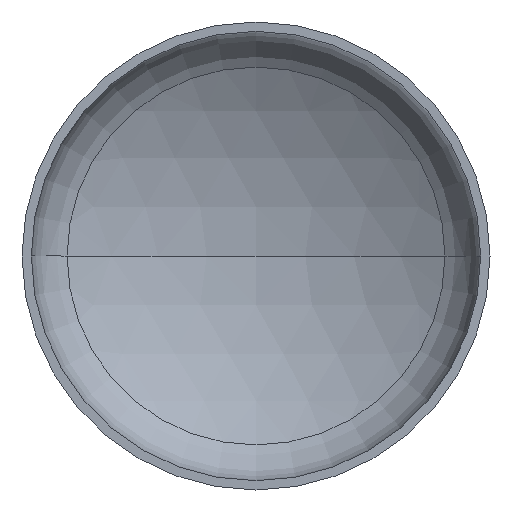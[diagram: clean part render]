
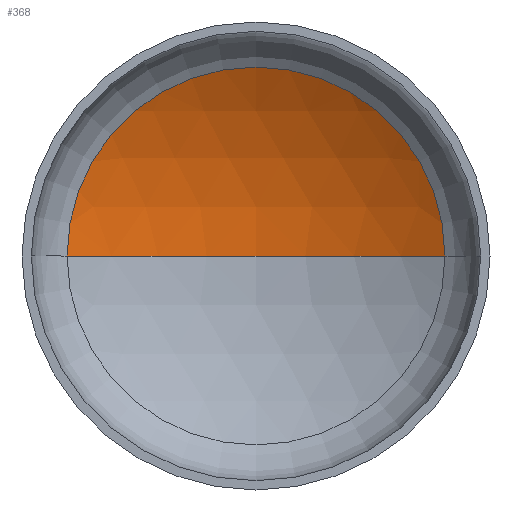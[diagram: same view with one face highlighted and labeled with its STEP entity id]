
A CAD part, front view. The second image highlights one B-rep face of the part: STEP entity #368.
In plain terms, the highlighted spherical face has radius 3040 mm.
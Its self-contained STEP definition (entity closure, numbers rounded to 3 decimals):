
#3 = AXIS2_PLACEMENT_3D ( 'NONE', #361, #110, #118 ) ;
#11 = AXIS2_PLACEMENT_3D ( 'NONE', #249, #409, #271 ) ;
#12 = AXIS2_PLACEMENT_3D ( 'NONE', #158, #362, #341 ) ;
#15 = AXIS2_PLACEMENT_3D ( 'NONE', #274, #366, #226 ) ;
#23 = VERTEX_POINT ( 'NONE', #260 ) ;
#25 = EDGE_LOOP ( 'NONE', ( #124, #114, #51 ) ) ;
#26 = VERTEX_POINT ( 'NONE', #243 ) ;
#51 = ORIENTED_EDGE ( 'NONE', *, *, #332, .T. ) ;
#110 = DIRECTION ( 'NONE',  ( 0., 0., -1. ) ) ;
#111 = CIRCLE ( 'NONE', #11, 3040. ) ;
#114 = ORIENTED_EDGE ( 'NONE', *, *, #336, .T. ) ;
#118 = DIRECTION ( 'NONE',  ( -1., 0., 0. ) ) ;
#124 = ORIENTED_EDGE ( 'NONE', *, *, #343, .F. ) ;
#138 = VERTEX_POINT ( 'NONE', #291 ) ;
#158 = CARTESIAN_POINT ( 'NONE',  ( 0., -1999.411, 0. ) ) ;
#226 = DIRECTION ( 'NONE',  ( 1., 0., 0. ) ) ;
#243 = CARTESIAN_POINT ( 'NONE',  ( -1534.24, 625.033, 0. ) ) ;
#249 = CARTESIAN_POINT ( 'NONE',  ( 0., -1999.411, 0. ) ) ;
#260 = CARTESIAN_POINT ( 'NONE',  ( 1534.24, 625.033, 0. ) ) ;
#270 = CIRCLE ( 'NONE', #12, 3040. ) ;
#271 = DIRECTION ( 'NONE',  ( 1., 0., 0. ) ) ;
#274 = CARTESIAN_POINT ( 'NONE',  ( 0., 625.033, 0. ) ) ;
#291 = CARTESIAN_POINT ( 'NONE',  ( 0., 1040.589, 0. ) ) ;
#321 = SPHERICAL_SURFACE ( 'NONE', #3, 3040. ) ;
#332 = EDGE_CURVE ( 'NONE', #23, #26, #395, .T. ) ;
#336 = EDGE_CURVE ( 'NONE', #138, #23, #270, .T. ) ;
#341 = DIRECTION ( 'NONE',  ( -1., 0., 0. ) ) ;
#343 = EDGE_CURVE ( 'NONE', #138, #26, #111, .T. ) ;
#361 = CARTESIAN_POINT ( 'NONE',  ( 0., -1999.411, 0. ) ) ;
#362 = DIRECTION ( 'NONE',  ( 0., 0., -1. ) ) ;
#366 = DIRECTION ( 'NONE',  ( 0., -1., 0. ) ) ;
#368 = ADVANCED_FACE ( 'NONE', ( #382 ), #321, .F. ) ;
#382 = FACE_OUTER_BOUND ( 'NONE', #25, .T. ) ;
#395 = CIRCLE ( 'NONE', #15, 1534.24 ) ;
#409 = DIRECTION ( 'NONE',  ( 0., 0., 1. ) ) ;
